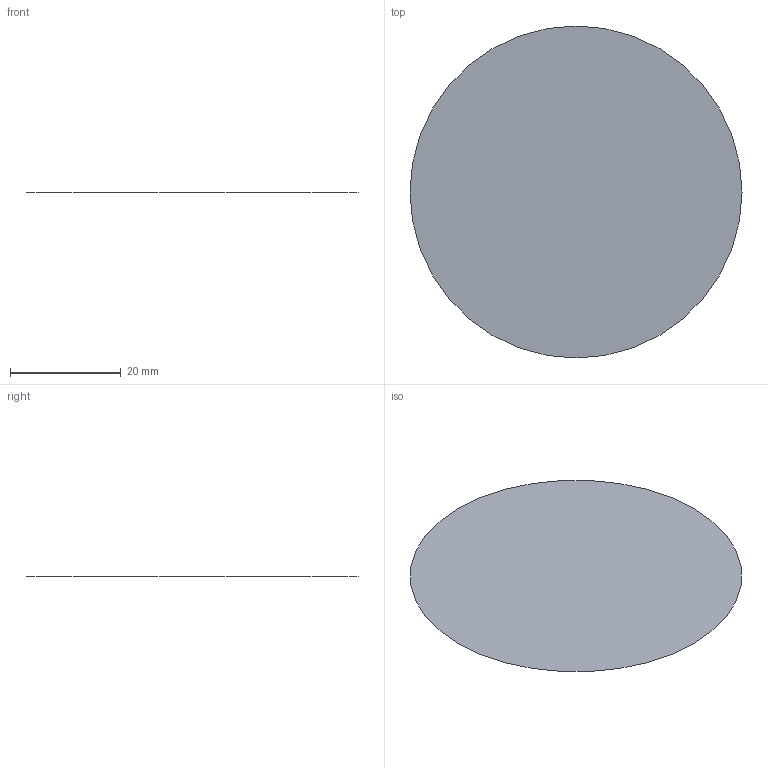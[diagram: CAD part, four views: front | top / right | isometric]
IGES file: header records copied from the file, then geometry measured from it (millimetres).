
Global section: file name: Filename.iges; native system: Open CASCADE 7.9; preprocessor: Open CASCADE IGES processor 7.9; author: HAKAN KARATEKE; date: 20261015.195651; units: millimetre
Bounding box: 60.01 x 60.01 x 0 mm (x, y, z)
Surface area: 2828.1 mm2 (no closed solid volume)
Topology: 0 solids, 0 shells, 1 faces, 1 edges, 1 vertices
Faces by surface type: plane 1
